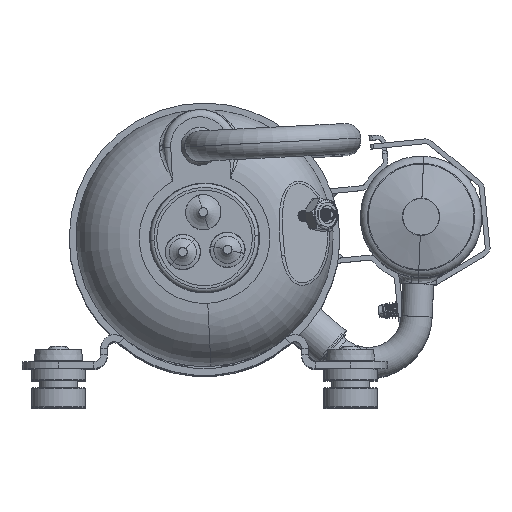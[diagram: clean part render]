
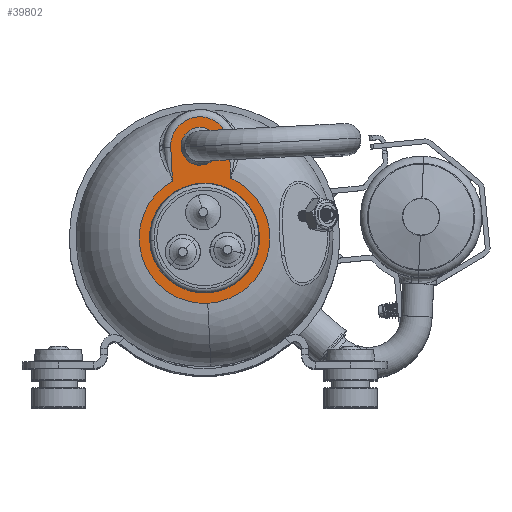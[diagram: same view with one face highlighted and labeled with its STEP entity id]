
A CAD part, top view. The second image highlights one B-rep face of the part: STEP entity #39802.
In plain terms, the highlighted planar face has unit normal (0, 0, 1).
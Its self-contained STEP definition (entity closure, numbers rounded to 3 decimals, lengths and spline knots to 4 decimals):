
#78 = FACE_OUTER_BOUND ( 'NONE', #61614, .T. ) ;
#804 = DIRECTION ( 'NONE',  ( 0.05, -0.999, 0. ) ) ;
#1757 = CIRCLE ( 'NONE', #61676, 0.565 ) ;
#2619 = ORIENTED_EDGE ( 'NONE', *, *, #67818, .T. ) ;
#3024 = VERTEX_POINT ( 'NONE', #54345 ) ;
#3303 = CIRCLE ( 'NONE', #63198, 0.6715 ) ;
#3452 = LINE ( 'NONE', #61528, #42323 ) ;
#3782 = EDGE_CURVE ( 'NONE', #38229, #3024, #3452, .T. ) ;
#5239 = ORIENTED_EDGE ( 'NONE', *, *, #35206, .T. ) ;
#5376 = CIRCLE ( 'NONE', #41587, 0.3 ) ;
#5567 = DIRECTION ( 'NONE',  ( 0., 0., -1. ) ) ;
#6717 = DIRECTION ( 'NONE',  ( 0.05, -0.999, 0. ) ) ;
#6850 = EDGE_LOOP ( 'NONE', ( #59825, #5239 ) ) ;
#7223 = DIRECTION ( 'NONE',  ( 0., 0., -1. ) ) ;
#8262 = DIRECTION ( 'NONE',  ( -0.05, 0.999, 0. ) ) ;
#10173 = DIRECTION ( 'NONE',  ( 0., 0., 1. ) ) ;
#13381 = VECTOR ( 'NONE', #8262, 39.3701 ) ;
#15508 = AXIS2_PLACEMENT_3D ( 'NONE', #44680, #44332, #28396 ) ;
#16729 = FACE_BOUND ( 'NONE', #6850, .T. ) ;
#16763 = CARTESIAN_POINT ( 'NONE',  ( -0.0471, 0.9453, 5.005 ) ) ;
#17971 = VERTEX_POINT ( 'NONE', #68525 ) ;
#19764 = EDGE_CURVE ( 'NONE', #60628, #65297, #1757, .T. ) ;
#20576 = DIRECTION ( 'NONE',  ( 0., 0., 1. ) ) ;
#21255 = ORIENTED_EDGE ( 'NONE', *, *, #27480, .T. ) ;
#22368 = CIRCLE ( 'NONE', #23487, 0.565 ) ;
#22881 = EDGE_CURVE ( 'NONE', #65297, #60628, #22368, .T. ) ;
#22996 = DIRECTION ( 'NONE',  ( 0., 0., 1. ) ) ;
#23487 = AXIS2_PLACEMENT_3D ( 'NONE', #46172, #47199, #36605 ) ;
#24861 = ORIENTED_EDGE ( 'NONE', *, *, #41517, .T. ) ;
#25414 = CARTESIAN_POINT ( 'NONE',  ( 0.2698, 0.6149, 5.005 ) ) ;
#25552 = VERTEX_POINT ( 'NONE', #28983 ) ;
#26551 = VERTEX_POINT ( 'NONE', #61825 ) ;
#27480 = EDGE_CURVE ( 'NONE', #26551, #38229, #5376, .T. ) ;
#28396 = DIRECTION ( 'NONE',  ( 0.05, -0.999, 0. ) ) ;
#28983 = CARTESIAN_POINT ( 'NONE',  ( -0.0562, 1.1291, 5.005 ) ) ;
#29987 = AXIS2_PLACEMENT_3D ( 'NONE', #55868, #22996, #6717 ) ;
#30540 = CARTESIAN_POINT ( 'NONE',  ( 0.2526, 0.9602, 5.005 ) ) ;
#32098 = CARTESIAN_POINT ( 'NONE',  ( -0.0469, 0.9413, 5.005 ) ) ;
#33373 = DIRECTION ( 'NONE',  ( 0., 0., 1. ) ) ;
#35206 = EDGE_CURVE ( 'NONE', #25552, #68126, #61306, .T. ) ;
#35717 = CARTESIAN_POINT ( 'NONE',  ( 0.0281, -0.5643, 5.005 ) ) ;
#36230 = ORIENTED_EDGE ( 'NONE', *, *, #3782, .T. ) ;
#36605 = DIRECTION ( 'NONE',  ( -0.05, 0.999, 0. ) ) ;
#38229 = VERTEX_POINT ( 'NONE', #42938 ) ;
#39802 = ADVANCED_FACE ( 'NONE', ( #16729, #59535, #78 ), #64882, .F. ) ;
#39815 = AXIS2_PLACEMENT_3D ( 'NONE', #32098, #5567, #43790 ) ;
#41304 = EDGE_CURVE ( 'NONE', #68126, #25552, #48366, .T. ) ;
#41517 = EDGE_CURVE ( 'NONE', #67752, #26551, #62756, .T. ) ;
#41587 = AXIS2_PLACEMENT_3D ( 'NONE', #16763, #33373, #804 ) ;
#42323 = VECTOR ( 'NONE', #51565, 39.3701 ) ;
#42938 = CARTESIAN_POINT ( 'NONE',  ( -0.3467, 0.9304, 5.005 ) ) ;
#43156 = CARTESIAN_POINT ( 'NONE',  ( -0.0281, 0.5643, 5.005 ) ) ;
#43790 = DIRECTION ( 'NONE',  ( 0.05, -0.999, 0. ) ) ;
#44332 = DIRECTION ( 'NONE',  ( 0., 0., -1. ) ) ;
#44680 = CARTESIAN_POINT ( 'NONE',  ( 0., 0., 5.005 ) ) ;
#46172 = CARTESIAN_POINT ( 'NONE',  ( 0., 0., 5.005 ) ) ;
#47004 = DIRECTION ( 'NONE',  ( 0.05, -0.999, 0. ) ) ;
#47199 = DIRECTION ( 'NONE',  ( 0., 0., 1. ) ) ;
#48139 = DIRECTION ( 'NONE',  ( -0.05, 0.999, 0. ) ) ;
#48366 = CIRCLE ( 'NONE', #49378, 0.188 ) ;
#49378 = AXIS2_PLACEMENT_3D ( 'NONE', #56027, #7223, #55348 ) ;
#49827 = ORIENTED_EDGE ( 'NONE', *, *, #22881, .F. ) ;
#51476 = EDGE_CURVE ( 'NONE', #3024, #17971, #61617, .T. ) ;
#51565 = DIRECTION ( 'NONE',  ( 0.05, -0.999, 0. ) ) ;
#51871 = CARTESIAN_POINT ( 'NONE',  ( -0.0375, 0.7536, 5.005 ) ) ;
#52733 = ORIENTED_EDGE ( 'NONE', *, *, #19764, .F. ) ;
#54345 = CARTESIAN_POINT ( 'NONE',  ( -0.3295, 0.5851, 5.005 ) ) ;
#55348 = DIRECTION ( 'NONE',  ( 0.05, -0.999, 0. ) ) ;
#55868 = CARTESIAN_POINT ( 'NONE',  ( 0., 0., 5.005 ) ) ;
#56027 = CARTESIAN_POINT ( 'NONE',  ( -0.0469, 0.9413, 5.005 ) ) ;
#58779 = CARTESIAN_POINT ( 'NONE',  ( 0., 0., 5.005 ) ) ;
#59535 = FACE_BOUND ( 'NONE', #63941, .T. ) ;
#59825 = ORIENTED_EDGE ( 'NONE', *, *, #41304, .T. ) ;
#60628 = VERTEX_POINT ( 'NONE', #35717 ) ;
#61306 = CIRCLE ( 'NONE', #39815, 0.188 ) ;
#61528 = CARTESIAN_POINT ( 'NONE',  ( -0.3273, 0.5414, 5.005 ) ) ;
#61614 = EDGE_LOOP ( 'NONE', ( #36230, #65102, #2619, #24861, #21255 ) ) ;
#61617 = CIRCLE ( 'NONE', #29987, 0.6715 ) ;
#61676 = AXIS2_PLACEMENT_3D ( 'NONE', #58779, #20576, #48139 ) ;
#61825 = CARTESIAN_POINT ( 'NONE',  ( 0.2526, 0.9602, 5.005 ) ) ;
#62756 = LINE ( 'NONE', #30540, #13381 ) ;
#63198 = AXIS2_PLACEMENT_3D ( 'NONE', #64361, #10173, #47004 ) ;
#63941 = EDGE_LOOP ( 'NONE', ( #49827, #52733 ) ) ;
#64361 = CARTESIAN_POINT ( 'NONE',  ( 0., 0., 5.005 ) ) ;
#64882 = PLANE ( 'NONE',  #15508 ) ;
#65102 = ORIENTED_EDGE ( 'NONE', *, *, #51476, .T. ) ;
#65297 = VERTEX_POINT ( 'NONE', #43156 ) ;
#67752 = VERTEX_POINT ( 'NONE', #25414 ) ;
#67818 = EDGE_CURVE ( 'NONE', #17971, #67752, #3303, .T. ) ;
#68126 = VERTEX_POINT ( 'NONE', #51871 ) ;
#68525 = CARTESIAN_POINT ( 'NONE',  ( 0.0334, -0.6707, 5.005 ) ) ;
